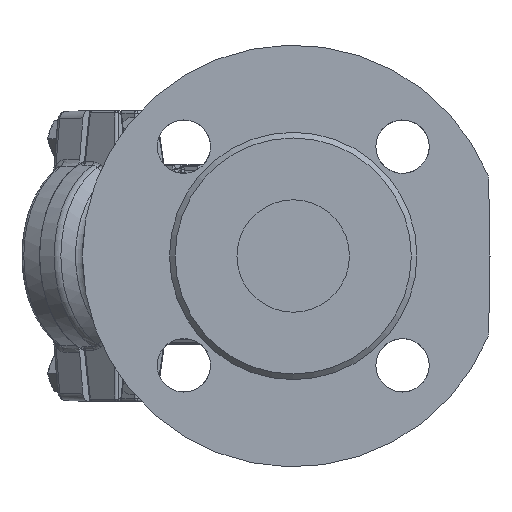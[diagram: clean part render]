
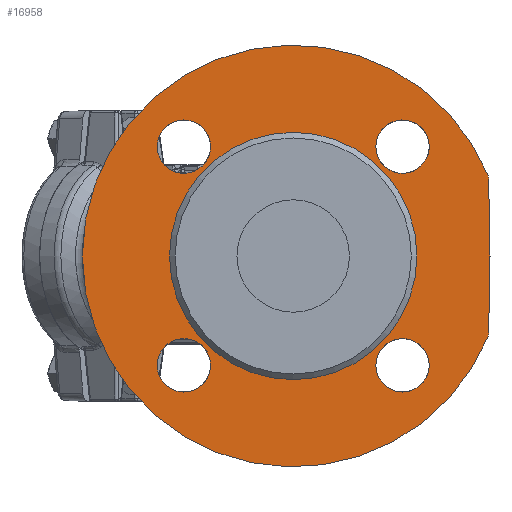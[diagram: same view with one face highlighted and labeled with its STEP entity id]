
A CAD part, left-side view. The second image highlights one B-rep face of the part: STEP entity #16958.
In plain terms, the highlighted planar face has unit normal (-1, 0, 0).
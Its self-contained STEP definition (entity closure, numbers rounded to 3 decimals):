
#241 = CARTESIAN_POINT ( 'NONE',  ( 14.108, -51.665, -27.225 ) ) ;
#870 = DIRECTION ( 'NONE',  ( 0., -1., 0. ) ) ;
#2204 = DIRECTION ( 'NONE',  ( 0., -0.017, -1. ) ) ;
#3377 = CARTESIAN_POINT ( 'NONE',  ( 14.108, 66.251, 38.891 ) ) ;
#4313 = VERTEX_POINT ( 'NONE', #24367 ) ;
#6088 = DIRECTION ( 'NONE',  ( -1., 0., 0. ) ) ;
#6295 = CARTESIAN_POINT ( 'NONE',  ( 14.108, -51.274, 29.076 ) ) ;
#6647 = CIRCLE ( 'NONE', #32813, 75. ) ;
#7421 = DIRECTION ( 'NONE',  ( 0., 1., 0. ) ) ;
#7726 = LINE ( 'NONE', #26789, #14110 ) ;
#7980 = AXIS2_PLACEMENT_3D ( 'NONE', #36753, #51839, #46883 ) ;
#9228 = VERTEX_POINT ( 'NONE', #3377 ) ;
#10247 = EDGE_CURVE ( 'NONE', #9228, #9228, #35159, .T. ) ;
#10515 = VERTEX_POINT ( 'NONE', #29868 ) ;
#10795 = ORIENTED_EDGE ( 'NONE', *, *, #20592, .T. ) ;
#11329 = ORIENTED_EDGE ( 'NONE', *, *, #28124, .F. ) ;
#11671 = DIRECTION ( 'NONE',  ( 0., 1., 0. ) ) ;
#11961 = FACE_BOUND ( 'NONE', #48108, .T. ) ;
#12119 = EDGE_CURVE ( 'NONE', #4313, #4313, #45622, .T. ) ;
#13458 = CIRCLE ( 'NONE', #40645, 44. ) ;
#13651 = CARTESIAN_POINT ( 'NONE',  ( 14.108, 17.86, 0. ) ) ;
#13939 = EDGE_LOOP ( 'NONE', ( #20594 ) ) ;
#13946 = ORIENTED_EDGE ( 'NONE', *, *, #10247, .T. ) ;
#14069 = DIRECTION ( 'NONE',  ( 0., 1., 0. ) ) ;
#14110 = VECTOR ( 'NONE', #2204, 1000. ) ;
#15745 = DIRECTION ( 'NONE',  ( -1., 0., 0. ) ) ;
#16607 = CIRCLE ( 'NONE', #17703, 5. ) ;
#16958 = ADVANCED_FACE ( 'NONE', ( #26410, #45701, #11961, #40467, #60460, #40792 ), #56830, .F. ) ;
#17628 = DIRECTION ( 'NONE',  ( 0., 1., 0. ) ) ;
#17703 = AXIS2_PLACEMENT_3D ( 'NONE', #24961, #15745, #24335 ) ;
#19480 = DIRECTION ( 'NONE',  ( 0., 1., 0. ) ) ;
#20592 = EDGE_CURVE ( 'NONE', #54435, #54435, #31271, .T. ) ;
#20594 = ORIENTED_EDGE ( 'NONE', *, *, #12119, .F. ) ;
#21007 = ORIENTED_EDGE ( 'NONE', *, *, #48578, .T. ) ;
#21670 = AXIS2_PLACEMENT_3D ( 'NONE', #43512, #33055, #14069 ) ;
#24121 = EDGE_LOOP ( 'NONE', ( #13946 ) ) ;
#24335 = DIRECTION ( 'NONE',  ( 0., 1., 0. ) ) ;
#24367 = CARTESIAN_POINT ( 'NONE',  ( 14.108, 66.251, -38.891 ) ) ;
#24578 = DIRECTION ( 'NONE',  ( 1., 0., 0. ) ) ;
#24961 = CARTESIAN_POINT ( 'NONE',  ( 14.108, -46.666, -27.138 ) ) ;
#25858 = CIRCLE ( 'NONE', #21670, 9.5 ) ;
#26284 = VERTEX_POINT ( 'NONE', #46036 ) ;
#26410 = FACE_BOUND ( 'NONE', #61381, .T. ) ;
#26789 = CARTESIAN_POINT ( 'NONE',  ( 14.108, -52.132, 0.454 ) ) ;
#27620 = AXIS2_PLACEMENT_3D ( 'NONE', #43817, #24578, #35523 ) ;
#27824 = CARTESIAN_POINT ( 'NONE',  ( 14.108, -51.274, -29.076 ) ) ;
#28124 = EDGE_CURVE ( 'NONE', #35722, #35722, #25858, .T. ) ;
#28698 = VERTEX_POINT ( 'NONE', #241 ) ;
#29154 = VERTEX_POINT ( 'NONE', #6295 ) ;
#29288 = EDGE_CURVE ( 'NONE', #50000, #28698, #16607, .T. ) ;
#29364 = AXIS2_PLACEMENT_3D ( 'NONE', #41118, #51947, #870 ) ;
#29868 = CARTESIAN_POINT ( 'NONE',  ( 14.108, 61.86, 0. ) ) ;
#31271 = CIRCLE ( 'NONE', #57438, 9.5 ) ;
#32290 = ORIENTED_EDGE ( 'NONE', *, *, #43683, .F. ) ;
#32638 = DIRECTION ( 'NONE',  ( 1., 0., 0. ) ) ;
#32772 = CIRCLE ( 'NONE', #27620, 5. ) ;
#32813 = AXIS2_PLACEMENT_3D ( 'NONE', #50987, #6088, #11671 ) ;
#33026 = EDGE_CURVE ( 'NONE', #29154, #42866, #32772, .T. ) ;
#33055 = DIRECTION ( 'NONE',  ( -1., 0., 0. ) ) ;
#33065 = AXIS2_PLACEMENT_3D ( 'NONE', #60026, #50172, #19480 ) ;
#33235 = CARTESIAN_POINT ( 'NONE',  ( 14.108, -52.132, -0.454 ) ) ;
#33881 = LINE ( 'NONE', #33235, #62172 ) ;
#35159 = CIRCLE ( 'NONE', #33065, 9.5 ) ;
#35523 = DIRECTION ( 'NONE',  ( 0., 1., 0. ) ) ;
#35585 = ORIENTED_EDGE ( 'NONE', *, *, #29288, .T. ) ;
#35722 = VERTEX_POINT ( 'NONE', #60637 ) ;
#35746 = EDGE_CURVE ( 'NONE', #10515, #10515, #13458, .T. ) ;
#36753 = CARTESIAN_POINT ( 'NONE',  ( 14.108, 56.751, -38.891 ) ) ;
#36904 = CARTESIAN_POINT ( 'NONE',  ( 14.108, -51.665, 27.225 ) ) ;
#37248 = DIRECTION ( 'NONE',  ( -1., 0., 0. ) ) ;
#39317 = ORIENTED_EDGE ( 'NONE', *, *, #42175, .T. ) ;
#40467 = FACE_BOUND ( 'NONE', #24121, .T. ) ;
#40645 = AXIS2_PLACEMENT_3D ( 'NONE', #13651, #37248, #7421 ) ;
#40792 = FACE_BOUND ( 'NONE', #13939, .T. ) ;
#41118 = CARTESIAN_POINT ( 'NONE',  ( 14.108, -26.14, 0. ) ) ;
#42175 = EDGE_CURVE ( 'NONE', #29154, #50000, #6647, .T. ) ;
#42866 = VERTEX_POINT ( 'NONE', #36904 ) ;
#43512 = CARTESIAN_POINT ( 'NONE',  ( 14.108, -21.031, 38.891 ) ) ;
#43683 = EDGE_CURVE ( 'NONE', #42866, #26284, #7726, .T. ) ;
#43817 = CARTESIAN_POINT ( 'NONE',  ( 14.108, -46.666, 27.138 ) ) ;
#45130 = EDGE_LOOP ( 'NONE', ( #39317, #35585, #21007, #32290, #61799 ) ) ;
#45622 = CIRCLE ( 'NONE', #7980, 9.5 ) ;
#45701 = FACE_OUTER_BOUND ( 'NONE', #45130, .T. ) ;
#46036 = CARTESIAN_POINT ( 'NONE',  ( 14.108, -52.14, 0. ) ) ;
#46883 = DIRECTION ( 'NONE',  ( 0., 1., 0. ) ) ;
#48108 = EDGE_LOOP ( 'NONE', ( #11329 ) ) ;
#48578 = EDGE_CURVE ( 'NONE', #28698, #26284, #33881, .T. ) ;
#50000 = VERTEX_POINT ( 'NONE', #27824 ) ;
#50172 = DIRECTION ( 'NONE',  ( 1., 0., 0. ) ) ;
#50987 = CARTESIAN_POINT ( 'NONE',  ( 14.108, 17.86, 0. ) ) ;
#51031 = EDGE_LOOP ( 'NONE', ( #10795 ) ) ;
#51839 = DIRECTION ( 'NONE',  ( -1., 0., 0. ) ) ;
#51947 = DIRECTION ( 'NONE',  ( 1., 0., 0. ) ) ;
#53224 = DIRECTION ( 'NONE',  ( 0., -0.017, 1. ) ) ;
#54435 = VERTEX_POINT ( 'NONE', #55713 ) ;
#55713 = CARTESIAN_POINT ( 'NONE',  ( 14.108, -11.531, -38.891 ) ) ;
#56830 = PLANE ( 'NONE',  #29364 ) ;
#57438 = AXIS2_PLACEMENT_3D ( 'NONE', #63441, #32638, #17628 ) ;
#60026 = CARTESIAN_POINT ( 'NONE',  ( 14.108, 56.751, 38.891 ) ) ;
#60460 = FACE_BOUND ( 'NONE', #51031, .T. ) ;
#60637 = CARTESIAN_POINT ( 'NONE',  ( 14.108, -11.531, 38.891 ) ) ;
#61381 = EDGE_LOOP ( 'NONE', ( #64013 ) ) ;
#61799 = ORIENTED_EDGE ( 'NONE', *, *, #33026, .F. ) ;
#62172 = VECTOR ( 'NONE', #53224, 1000. ) ;
#63441 = CARTESIAN_POINT ( 'NONE',  ( 14.108, -21.031, -38.891 ) ) ;
#64013 = ORIENTED_EDGE ( 'NONE', *, *, #35746, .F. ) ;
